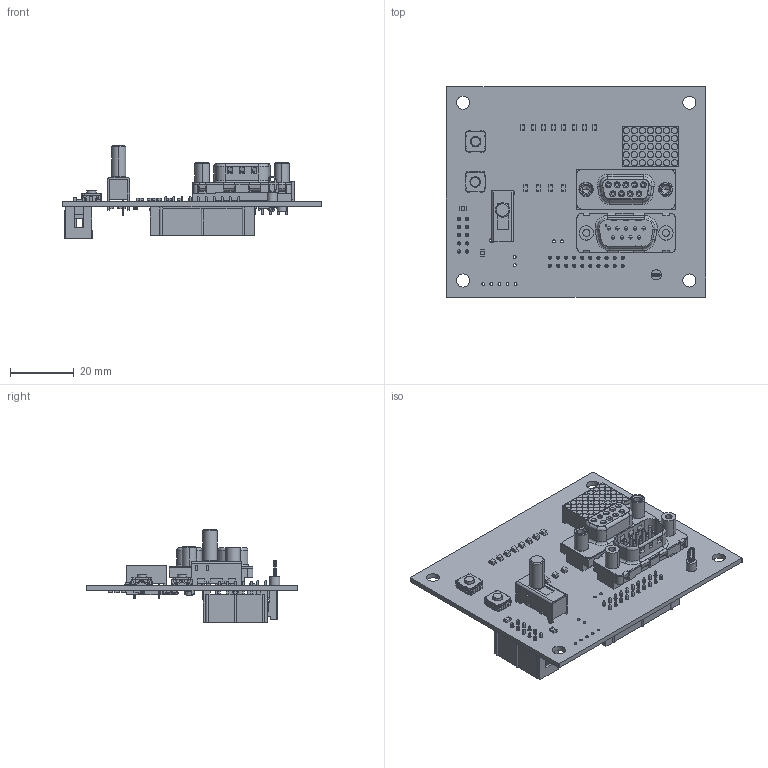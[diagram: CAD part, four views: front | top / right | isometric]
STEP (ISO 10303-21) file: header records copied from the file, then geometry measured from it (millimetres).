
FILE_DESCRIPTION(('Open CASCADE Model'),'2;1');
FILE_NAME('Open CASCADE Shape Model','2021-03-30T16:58:11',('Author'),( 'Open CASCADE'),'Open CASCADE STEP processor 6.8','Open CASCADE 6.8' ,'Unknown');
FILE_SCHEMA(('AUTOMOTIVE_DESIGN { 1 0 10303 214 1 1 1 1 }'));
Length unit declared in the file: millimetre
Products named in the file (75): PCB; Board; Open CASCADE STEP translator 6.8 3.1.1; DIS1; TX07?; HALT_EN; 6575613840; Extruded; 6575614000; R18; RES_0805_(2012_metric); R17; R16; R15; R14; Q5; SOT23-3; Q4; Q3; Q2; Q1; R13; R12; R11; R10; R9; R8; R7; R1; R4; 1206_resistor; R5; BAUD; KSC241JLFS; _KSC2_-_body; _KSC2__-_button; _KSC2_-_cover; _KSC21J_pin; MODE; U1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
Assembly tree (139 placements, depth 4):
  PCB
    Board
      Open CASCADE STEP translator 6.8 3.1.1
    DIS1
      TX07?
    HALT_EN
      6575613840
        Extruded
      6575614000
        Extruded
    R18
      RES_0805_(2012_metric)
    R17
      RES_0805_(2012_metric)
    R16
      RES_0805_(2012_metric)
    R15
      RES_0805_(2012_metric)
    R14
      RES_0805_(2012_metric)
    Q5
      SOT23-3
    Q4
      SOT23-3
    Q3
      SOT23-3
    Q2
      SOT23-3
    Q1
      SOT23-3
    R13
      RES_0805_(2012_metric)
    R12
      RES_0805_(2012_metric)
    R11
      RES_0805_(2012_metric)
    R10
      RES_0805_(2012_metric)
    R9
      RES_0805_(2012_metric)
    R8
      RES_0805_(2012_metric)
    R7
      RES_0805_(2012_metric)
    R1
      RES_0805_(2012_metric)
    R4
      1206_resistor
    R5
      RES_0805_(2012_metric)
    BAUD
      KSC241JLFS
        _KSC2_-_body
        _KSC2__-_button
        _KSC2_-_cover
        _KSC21J_pin  x4
    MODE
      KSC241JLFS
        _KSC2_-_body
        _KSC2__-_button
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Bounding box: 81.41 x 66.29 x 29.12 mm (x, y, z)
Volume: 17488.5 mm3; surface area: 24352.8 mm2
Topology: 98 solids, 98 shells, 4246 faces, 10946 edges, 6936 vertices
Faces by surface type: plane 3166, cylinder 789, bspline 151, cone 58, torus 46, sphere 36
Full cylindrical faces by diameter (mm): 0.762 x12, 0.9 x30, 0.991 x20, 1.067 x10, 1.4 x2, 1.5 x2, 1.6 x1, 3.1 x4, 3.2 x1, 3.28 x2, 4.1 x4
Entity records: 103025 total; most frequent: CARTESIAN_POINT 25309, ORIENTED_EDGE 14646, DIRECTION 13682, EDGE_CURVE 7323, LINE 5386, VECTOR 5386, VERTEX_POINT 4666, AXIS2_PLACEMENT_3D 4148
